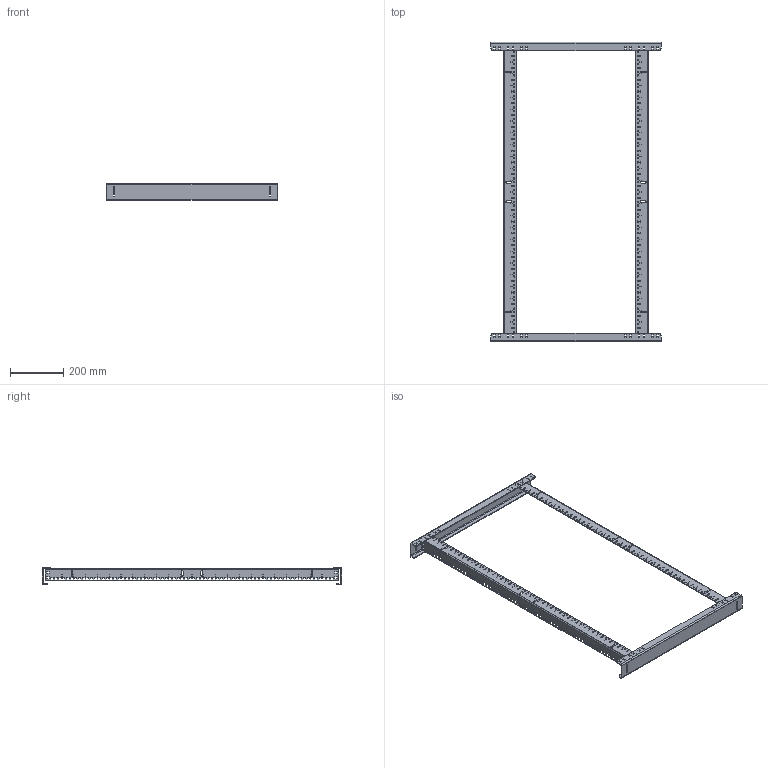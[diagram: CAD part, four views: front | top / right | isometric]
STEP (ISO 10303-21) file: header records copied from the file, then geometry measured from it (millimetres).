
FILE_DESCRIPTION (( 'STEP AP203' ), '1' );
FILE_NAME ('ps1ra127.STEP', '2018-10-16T14:45:28', ( '' ), ( '' ), 'SwSTEP 2.0', 'SolidWorks 2016', '' );
FILE_SCHEMA (( 'CONFIG_CONTROL_DESIGN' ));
Length unit declared in the file: millimetre
Products named in the file (4): 89167113_89167113; 89165527_89165527; ps1ra127; 89167111_89167111
Assembly tree (4 placements, depth 2):
  ps1ra127
    89167111_89167111
    89167113_89167113
    89165527_89165527  x2
Bounding box: 639.14 x 1125.94 x 63.5 mm (x, y, z)
Volume: 865261.2 mm3; surface area: 666309.6 mm2
Topology: 4 solids, 4 shells, 1676 faces, 4680 edges, 3104 vertices
Faces by surface type: plane 1204, cylinder 472
Entity records: 52888 total; most frequent: CARTESIAN_POINT 9005, ORIENTED_EDGE 8900, DIRECTION 8564, EDGE_CURVE 4450, LINE 3534, VECTOR 3534, VERTEX_POINT 2956, AXIS2_PLACEMENT_3D 2515
